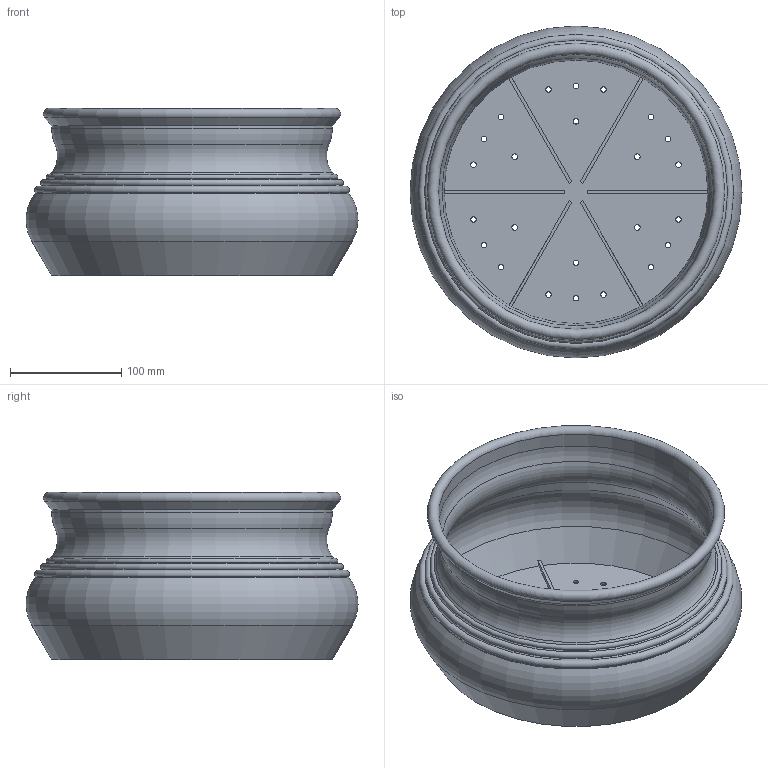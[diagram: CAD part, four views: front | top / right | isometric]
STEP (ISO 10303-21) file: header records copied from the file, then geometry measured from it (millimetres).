
FILE_DESCRIPTION(/* description */ (''),/* implementation_level */ '2;1');
FILE_NAME(/* name */ 'LR2406-S25-H150-D300_step.step',/* time_stamp */ '2024-02-01T10:59:13+01:00',/* author */ (''),/* organization */ (''),/* preprocessor_version */ 'ST-DEVELOPER v20',/* originating_system */ 'Autodesk Translation Framework v12.20.1.177',/* authorisation */ '');
FILE_SCHEMA (('AUTOMOTIVE_DESIGN { 1 0 10303 214 3 1 1 }'));
Length unit declared in the file: millimetre
Products named in the file (1): LR2406-S25-H150-D300
Bounding box: 297.99 x 297.99 x 150 mm (x, y, z)
Volume: 524068.6 mm3; surface area: 390598.3 mm2
Topology: 1 solids, 1 shells, 70 faces, 185 edges, 117 vertices
Faces by surface type: cylinder 32, plane 20, torus 10, cone 8
Full cylindrical faces by diameter (mm): 5 x24, 247 x1, 252 x1
Entity records: 2336 total; most frequent: DIRECTION 430, CARTESIAN_POINT 373, ORIENTED_EDGE 370, EDGE_CURVE 185, AXIS2_PLACEMENT_3D 174, EDGE_LOOP 118, VERTEX_POINT 117, CIRCLE 103
